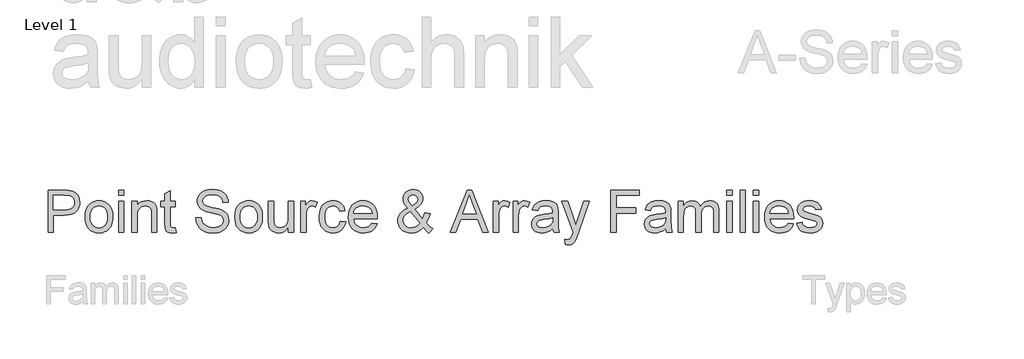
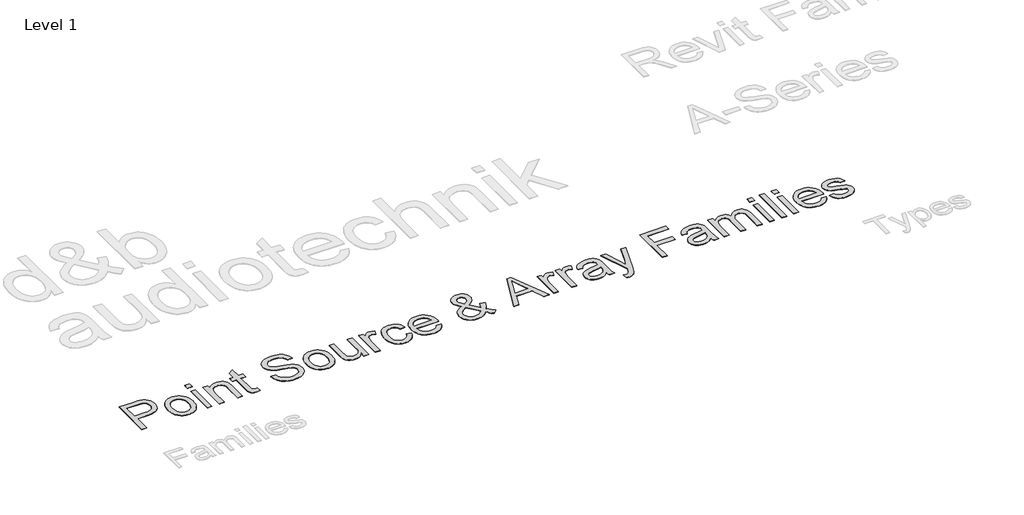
# One storey, part 8 of 9: 1 proxy.
"""IFC4 building model written with IfcOpenShell, lengths in millimetres."""

from ifc_helpers import new_model, si_unit, origin, origin_with_axes, place, context, project, spatial, polyline, outline, extrude, element, save

model = new_model("IFC4")

# Units and contexts
model_context = context("Model", 3, world=origin())
ifc_project = project(units=[si_unit("LENGTHUNIT", "METRE", prefix="MILLI")], contexts=[model_context])

# Site, building, storey
site = spatial("IfcSite", under=ifc_project)
building = spatial("IfcBuilding", under=site)
storey = spatial("IfcBuildingStorey", under=building, Name="Level 1", Elevation=0.0)

# Proxy
placement = place(None, origin())
element("IfcBuildingElementProxy", 1, Name="600mm Arial", ObjectType="600mm Arial", at=placement, inside=storey, context=model_context, shape_type="SweptSolid", body=[
    extrude(outline(polyline([(-21034.9539913, 18351.3054836), (-21034.9539913, 18942.0747143), (-20816.0116836, 18942.0747143), (-20765.0261067, 18940.6684643), (-20727.7424528, 18936.4497143), (-20688.3854817, 18925.938897), (-20655.9876451, 18908.829522), (-20629.8999047, 18884.346349), (-20609.473222, 18851.7141374), (-20596.2761067, 18813.2225509), (-20591.8770682, 18771.1612528), (-20594.8473206, 18734.8962288), (-20603.7580778, 18701.533849), (-20618.6093398, 18671.0741134), (-20639.4011067, 18643.517022), (-20667.9452773, 18620.674474), (-20706.0537509, 18604.3583682), (-20753.7265273, 18594.5687047), (-20810.9636067, 18591.3054836), (-20961.1078374, 18591.3054836), (-20961.1078374, 18351.3054836), (-21034.9539913, 18351.3054836)]), holes=[polyline([(-20961.1078374, 18665.1516374), (-20806.6366836, 18665.1516374), (-20771.1198567, 18666.846349), (-20741.1559143, 18671.9304836), (-20716.7448567, 18680.4040413), (-20697.8866836, 18692.267022), (-20683.8151692, 18707.2039211), (-20673.7640874, 18724.8992336), (-20667.7334384, 18745.3529595), (-20665.723222, 18768.565099), (-20670.4648086, 18801.7381759), (-20684.6895682, 18829.7189451), (-20706.630674, 18850.7766374), (-20734.521299, 18863.1804836), (-20763.0068759, 18866.9665413), (-20808.3674528, 18868.2285605), (-20961.1078374, 18868.2285605), (-20961.1078374, 18665.1516374)])]), origin_with_axes(), (0.0, 0.0, 1.0), 5.0),
    extrude(outline(polyline([(-20518.0309143, 18568.2285605), (-20514.0375249, 18624.4154595), (-20502.0573567, 18672.8319259), (-20482.0904095, 18713.4779595), (-20454.1366836, 18746.3535605), (-20425.9936547, 18767.3661807), (-20394.9299528, 18782.3751951), (-20360.9455778, 18791.3806038), (-20324.0405297, 18794.3824066), (-20283.2998446, 18790.7270581), (-20246.4624047, 18779.7610124), (-20213.52821, 18761.4842696), (-20184.4972605, 18735.8968297), (-20160.8028494, 18703.8640773), (-20143.8782701, 18666.251397), (-20133.7235225, 18623.0587889), (-20130.3386067, 18574.2862528), (-20131.8350009, 18534.7580076), (-20136.3241836, 18499.6828874), (-20143.8061547, 18469.0608922), (-20154.2809143, 18442.892022), (-20167.6177533, 18420.2883562), (-20183.6859624, 18400.361974), (-20202.4855417, 18383.1128754), (-20224.0164913, 18368.5410605), (-20247.4404696, 18356.9620341), (-20271.9191355, 18348.6913009), (-20297.4524889, 18343.728861), (-20324.0405297, 18342.0747143), (-20365.3761667, 18345.7165413), (-20402.5561547, 18356.642022), (-20435.5804937, 18374.8511566), (-20464.4491836, 18400.3439451), (-20487.8911908, 18432.6876951), (-20504.6354817, 18471.4497143), (-20514.6820562, 18516.6300028), (-20518.0309143, 18568.2285605)]), holes=[polyline([(-20444.1847605, 18568.3727913), (-20442.0483422, 18532.5539812), (-20435.6390874, 18501.5398586), (-20424.9569961, 18475.3304235), (-20410.0020682, 18453.9256759), (-20391.8109624, 18437.2985725), (-20371.4203374, 18425.4220701), (-20348.8301932, 18418.2961687), (-20324.0405297, 18415.9208682), (-20299.3770682, 18418.3096903), (-20276.8770682, 18425.4761566), (-20256.5405297, 18437.4202672), (-20238.3674528, 18454.142022), (-20223.4125249, 18475.7586086), (-20212.7304336, 18502.3872143), (-20206.3211788, 18534.0278393), (-20204.1847605, 18570.6804836), (-20206.3347004, 18605.3634764), (-20212.7845201, 18635.5663009), (-20223.5342196, 18661.2889571), (-20238.583799, 18682.5314451), (-20256.8244841, 18699.1585485), (-20277.1475009, 18711.0350509), (-20299.5528494, 18718.1609523), (-20324.0405297, 18720.5362528), (-20348.8301932, 18718.1699667), (-20371.4203374, 18711.0711086), (-20391.8109624, 18699.2396783), (-20410.0020682, 18682.6756759), (-20424.9569961, 18661.3340292), (-20435.6390874, 18635.1696663), (-20442.0483422, 18604.1825869), (-20444.1847605, 18568.3727913)])]), origin_with_axes(), (0.0, 0.0, 1.0), 5.0),
    extrude(outline(polyline([(-20047.2616836, 18868.2285605), (-20047.2616836, 18942.0747143), (-19973.4155297, 18942.0747143), (-19973.4155297, 18868.2285605), (-20047.2616836, 18868.2285605)])), origin_with_axes(), (0.0, 0.0, 1.0), 5.0),
    extrude(outline(polyline([(-20047.2616836, 18351.3054836), (-20047.2616836, 18785.1516374), (-19973.4155297, 18785.1516374), (-19973.4155297, 18351.3054836), (-20047.2616836, 18351.3054836)])), origin_with_axes(), (0.0, 0.0, 1.0), 5.0),
    extrude(outline(polyline([(-19862.646299, 18351.3054836), (-19862.646299, 18785.1516374), (-19788.8001451, 18785.1516374), (-19788.8001451, 18724.5747143), (-19763.145097, 18755.1155797), (-19732.333799, 18776.9304836), (-19696.3662509, 18790.0194259), (-19655.2424528, 18794.3824066), (-19618.8422124, 18790.8667816), (-19585.5068759, 18780.3199066), (-19557.7063951, 18764.0578874), (-19537.910722, 18743.3968297), (-19524.4792317, 18718.3908201), (-19515.771299, 18689.0939451), (-19511.8770682, 18617.6997143), (-19511.8770682, 18351.3054836), (-19585.723222, 18351.3054836), (-19585.723222, 18607.7477913), (-19587.8506259, 18645.9328874), (-19594.2328374, 18673.0843297), (-19606.005674, 18692.5374547), (-19624.3049528, 18707.627599), (-19647.7604817, 18717.3090893), (-19675.0020682, 18720.5362528), (-19697.4254456, 18718.7243538), (-19718.2532701, 18713.2886566), (-19737.4855417, 18704.2291615), (-19755.1222605, 18691.5458682), (-19769.856335, 18673.7964691), (-19780.380674, 18649.5386566), (-19786.6952773, 18618.7724307), (-19788.8001451, 18581.4977913), (-19788.8001451, 18351.3054836), (-19862.646299, 18351.3054836)])), origin_with_axes(), (0.0, 0.0, 1.0), 5.0),
    extrude(outline(polyline([(-19253.4155297, 18412.892022), (-19244.1847605, 18349.142022), (-19299.4251451, 18342.0747143), (-19334.8698567, 18345.1396182), (-19361.3001451, 18354.3343297), (-19379.9780297, 18368.5050028), (-19392.1655297, 18386.4977913), (-19398.8722605, 18417.3992336), (-19401.1078374, 18470.2958682), (-19401.1078374, 18711.3054836), (-19456.4924528, 18711.3054836), (-19456.4924528, 18785.1516374), (-19401.1078374, 18785.1516374), (-19401.1078374, 18890.5843297), (-19327.2616836, 18933.9977913), (-19327.2616836, 18785.1516374), (-19253.4155297, 18785.1516374), (-19253.4155297, 18711.3054836), (-19327.2616836, 18711.3054836), (-19327.2616836, 18472.4593297), (-19323.3674528, 18434.3824066), (-19310.7472605, 18420.8968297), (-19300.0922124, 18417.1648586), (-19285.5789913, 18415.9208682), (-19253.4155297, 18412.892022)])), origin_with_axes(), (0.0, 0.0, 1.0), 5.0),
    extrude(outline(polyline([(-18967.2616836, 18554.3824066), (-18893.4155297, 18554.3824066), (-18884.941972, 18513.4028393), (-18869.6174528, 18480.4641374), (-18845.7112028, 18454.3223105), (-18811.4924528, 18433.7333682), (-18769.6655297, 18420.3739932), (-18722.9347605, 18415.9208682), (-18681.7929336, 18419.2922624), (-18645.771299, 18429.4064451), (-18616.582597, 18445.4160605), (-18595.9395682, 18466.4737528), (-18583.661924, 18490.6504355), (-18579.5693759, 18516.017022), (-18582.6342797, 18540.7345701), (-18591.8289913, 18562.0987528), (-18610.5068759, 18580.3259163), (-18642.021299, 18595.6324066), (-18749.5453374, 18623.829522), (-18820.1282701, 18642.4893778), (-18865.2905297, 18660.2477913), (-18902.051347, 18685.0915413), (-18928.1030297, 18715.1997143), (-18943.6258663, 18749.923272), (-18948.8001451, 18788.6131759), (-18947.200085, 18810.603861), (-18942.3999047, 18831.8643778), (-18934.3996042, 18852.3947264), (-18923.1991836, 18872.1949066), (-18908.9248446, 18890.4581278), (-18891.7027893, 18906.377599), (-18871.5330177, 18919.9533201), (-18848.4155297, 18931.1852913), (-18796.4563951, 18946.2754355), (-18738.9443759, 18951.3054836), (-18676.6366836, 18946.0410605), (-18622.1174528, 18930.2477913), (-18598.2652893, 18918.4839691), (-18577.333799, 18904.2501951), (-18559.3229817, 18887.5464691), (-18544.2328374, 18868.3727913), (-18532.1805538, 18847.2880557), (-18523.2833182, 18824.8511566), (-18517.5411307, 18801.0620941), (-18514.9539913, 18775.9208682), (-18588.8001451, 18775.9208682), (-18593.740049, 18799.4845701), (-18602.3578374, 18819.9833682), (-18614.6535105, 18837.4172624), (-18630.6270682, 18851.7862528), (-18650.5759865, 18863.018224), (-18674.7977413, 18871.0410605), (-18703.2923326, 18875.8547624), (-18736.0597605, 18877.4593297), (-18769.8728615, 18875.8727913), (-18798.7640874, 18871.1131759), (-18822.7334384, 18863.1804836), (-18841.7809143, 18852.0747143), (-18856.2941355, 18838.7243538), (-18866.660722, 18824.0578874), (-18872.880674, 18808.0753153), (-18874.9539913, 18790.7766374), (-18869.0765874, 18762.3992336), (-18851.4443759, 18739.5747143), (-18835.254472, 18729.424474), (-18809.7616836, 18719.1660605), (-18730.8674528, 18698.3247143), (-18649.4491836, 18678.5290413), (-18600.1943759, 18661.2574066), (-18558.0970201, 18634.4665413), (-18541.8214792, 18618.7183441), (-18528.7280297, 18601.4016374), (-18518.6634264, 18582.6065653), (-18511.474424, 18562.423272), (-18505.723222, 18517.892022), (-18507.3773687, 18494.7925629), (-18512.3398086, 18472.3691855), (-18520.6105417, 18450.6218898), (-18532.1895682, 18429.5506759), (-18546.8740634, 18409.971349), (-18564.4612028, 18392.6997143), (-18584.9509865, 18377.735772), (-18608.3434143, 18365.079522), (-18633.9578975, 18355.0149187), (-18661.113847, 18347.8259163), (-18720.0501451, 18342.0747143), (-18757.825085, 18343.6251951), (-18792.3999047, 18348.2766374), (-18823.7746042, 18356.0290413), (-18851.9491836, 18366.8824066), (-18877.0949167, 18380.8547624), (-18899.3830778, 18397.9641374), (-18918.8136667, 18418.2105316), (-18935.3866836, 18441.5939451), (-18948.7370442, 18467.3571663), (-18958.4996643, 18494.7429836), (-18964.6745442, 18523.751397), (-18967.2616836, 18554.3824066)])), origin_with_axes(), (0.0, 0.0, 1.0), 5.0),
    extrude(outline(polyline([(-18422.646299, 18568.2285605), (-18418.6529095, 18624.4154595), (-18406.6727413, 18672.8319259), (-18386.7057942, 18713.4779595), (-18358.7520682, 18746.3535605), (-18330.6090393, 18767.3661807), (-18299.5453374, 18782.3751951), (-18265.5609624, 18791.3806038), (-18228.6559143, 18794.3824066), (-18187.9152292, 18790.7270581), (-18151.0777893, 18779.7610124), (-18118.1435946, 18761.4842696), (-18089.1126451, 18735.8968297), (-18065.4182341, 18703.8640773), (-18048.4936547, 18666.251397), (-18038.3389071, 18623.0587889), (-18034.9539913, 18574.2862528), (-18036.4503855, 18534.7580076), (-18040.9395682, 18499.6828874), (-18048.4215393, 18469.0608922), (-18058.896299, 18442.892022), (-18072.2331379, 18420.2883562), (-18088.301347, 18400.361974), (-18107.1009264, 18383.1128754), (-18128.6318759, 18368.5410605), (-18152.0558542, 18356.9620341), (-18176.5345201, 18348.6913009), (-18202.0678735, 18343.728861), (-18228.6559143, 18342.0747143), (-18269.9915514, 18345.7165413), (-18307.1715393, 18356.642022), (-18340.1958783, 18374.8511566), (-18369.0645682, 18400.3439451), (-18392.5065754, 18432.6876951), (-18409.2508663, 18471.4497143), (-18419.2974408, 18516.6300028), (-18422.646299, 18568.2285605)]), holes=[polyline([(-18348.8001451, 18568.3727913), (-18346.6637268, 18532.5539812), (-18340.254472, 18501.5398586), (-18329.5723807, 18475.3304235), (-18314.6174528, 18453.9256759), (-18296.426347, 18437.2985725), (-18276.035722, 18425.4220701), (-18253.4455778, 18418.2961687), (-18228.6559143, 18415.9208682), (-18203.9924528, 18418.3096903), (-18181.4924528, 18425.4761566), (-18161.1559143, 18437.4202672), (-18142.9828374, 18454.142022), (-18128.0279095, 18475.7586086), (-18117.3458182, 18502.3872143), (-18110.9365634, 18534.0278393), (-18108.8001451, 18570.6804836), (-18110.950085, 18605.3634764), (-18117.3999047, 18635.5663009), (-18128.1496042, 18661.2889571), (-18143.1991836, 18682.5314451), (-18161.4398687, 18699.1585485), (-18181.7628855, 18711.0350509), (-18204.1682341, 18718.1609523), (-18228.6559143, 18720.5362528), (-18253.4455778, 18718.1699667), (-18276.035722, 18711.0711086), (-18296.426347, 18699.2396783), (-18314.6174528, 18682.6756759), (-18329.5723807, 18661.3340292), (-18340.254472, 18635.1696663), (-18346.6637268, 18604.1825869), (-18348.8001451, 18568.3727913)])]), origin_with_axes(), (0.0, 0.0, 1.0), 5.0),
    extrude(outline(polyline([(-17674.9539913, 18351.3054836), (-17674.9539913, 18425.8727913), (-17701.6727413, 18389.2111326), (-17732.7905297, 18363.0242336), (-17768.3073567, 18347.3120941), (-17808.223222, 18342.0747143), (-17844.1907701, 18345.752599), (-17877.6703374, 18356.7862528), (-17905.7592797, 18373.3727913), (-17925.5549528, 18393.7093297), (-17938.8782701, 18418.408849), (-17947.5501451, 18448.0843297), (-17951.8770682, 18516.7381759), (-17951.8770682, 18785.1516374), (-17878.0309143, 18785.1516374), (-17878.0309143, 18551.4977913), (-17876.9131259, 18504.767022), (-17873.5597605, 18476.2093297), (-17862.7965393, 18451.095147), (-17844.3530297, 18432.002599), (-17819.4551932, 18419.9413009), (-17789.3289913, 18415.9208682), (-17757.4720201, 18420.0314451), (-17727.6703374, 18432.3631759), (-17703.0970201, 18451.7802432), (-17686.9251451, 18477.1468297), (-17677.9467797, 18511.8884163), (-17674.9539913, 18559.4304836), (-17674.9539913, 18785.1516374), (-17601.1078374, 18785.1516374), (-17601.1078374, 18351.3054836), (-17674.9539913, 18351.3054836)])), origin_with_axes(), (0.0, 0.0, 1.0), 5.0),
    extrude(outline(polyline([(-17499.5693759, 18351.3054836), (-17499.5693759, 18785.1516374), (-17434.9539913, 18785.1516374), (-17434.9539913, 18720.9689451), (-17411.083799, 18758.1804836), (-17389.0886067, 18780.1035605), (-17367.021299, 18790.8126951), (-17342.9347605, 18794.3824066), (-17306.1559143, 18788.6852913), (-17268.8001451, 18771.5939451), (-17293.4636067, 18705.392022), (-17319.4251451, 18716.7501951), (-17345.3866836, 18720.5362528), (-17367.4359624, 18716.8944259), (-17387.1414913, 18705.9689451), (-17403.0609624, 18688.5891374), (-17413.7520682, 18665.5843297), (-17422.7304336, 18624.3343297), (-17425.723222, 18579.3343297), (-17425.723222, 18351.3054836), (-17499.5693759, 18351.3054836)])), origin_with_axes(), (0.0, 0.0, 1.0), 5.0),
    extrude(outline(polyline([(-16945.723222, 18508.2285605), (-16871.8770682, 18498.9977913), (-16879.9089192, 18464.1525389), (-16892.4660105, 18433.3187047), (-16909.5483422, 18406.4962889), (-16931.1559143, 18383.6852913), (-16956.3782701, 18365.4806639), (-16984.3049528, 18352.4773586), (-17014.9359624, 18344.6753754), (-17048.271299, 18342.0747143), (-17089.6880658, 18345.7030196), (-17126.8229817, 18356.5879355), (-17159.6760466, 18374.7294619), (-17188.2472605, 18400.127599), (-17211.3737629, 18432.3045821), (-17227.8926932, 18470.782647), (-17237.8040514, 18515.5617937), (-17241.1078374, 18566.642022), (-17235.4648086, 18632.3571663), (-17228.4110225, 18661.9289812), (-17218.535722, 18689.3102913), (-17205.771299, 18713.9512167), (-17190.0501451, 18735.3018778), (-17171.3722605, 18753.3622744), (-17149.7376451, 18768.1324066), (-17126.1243639, 18779.6167816), (-17101.5104817, 18787.8199066), (-17075.8959985, 18792.7417816), (-17049.2809143, 18794.3824066), (-17016.5179937, 18792.1288009), (-16986.8830778, 18785.3679836), (-16960.3761667, 18774.0999547), (-16936.9972605, 18758.3247143), (-16917.1429937, 18738.4028393), (-16901.2100009, 18714.6949066), (-16889.1982821, 18687.2009163), (-16881.1078374, 18655.9208682), (-16954.9539913, 18646.690099), (-16968.349424, 18678.907647), (-16989.208799, 18702.002599), (-17016.3782701, 18715.9028393), (-17048.7039913, 18720.5362528), (-17073.7956379, 18718.2556038), (-17096.426347, 18711.4136566), (-17116.5961187, 18700.0104115), (-17134.3049528, 18684.0458682), (-17148.7235225, 18663.1504355), (-17159.0225009, 18636.954522), (-17165.2018879, 18605.4581278), (-17167.2616836, 18568.6612528), (-17165.24696, 18531.3099908), (-17159.2027893, 18499.4485124), (-17149.1291716, 18473.0768177), (-17135.0261067, 18452.1949066), (-17117.668835, 18436.3250148), (-17097.832597, 18424.9893778), (-17075.5173927, 18418.1879956), (-17050.723222, 18415.9208682), (-17012.4840393, 18421.5819259), (-16995.9470802, 18428.658248), (-16981.1318759, 18438.565099), (-16968.4530898, 18451.4106518), (-16958.3253855, 18467.3030797), (-16950.7487629, 18486.2423826), (-16945.723222, 18508.2285605)])), origin_with_axes(), (0.0, 0.0, 1.0), 5.0),
    extrude(outline(polyline([(-16503.5116836, 18480.5362528), (-16431.1078374, 18471.3054836), (-16442.2090994, 18442.3060845), (-16457.1955778, 18416.7501951), (-16476.0672725, 18394.6378153), (-16498.8241836, 18375.9689451), (-16525.231936, 18361.1402191), (-16555.0561547, 18350.548272), (-16588.2968398, 18344.1931038), (-16624.9539913, 18342.0747143), (-16670.7743038, 18345.7300629), (-16711.6006259, 18356.6961086), (-16747.4329576, 18374.9728514), (-16778.271299, 18400.5602913), (-16803.0699768, 18432.7462889), (-16820.7833182, 18470.8187047), (-16831.411323, 18514.7775389), (-16834.9539913, 18564.6227913), (-16831.3752653, 18616.158248), (-16820.6390874, 18661.5819259), (-16802.7454576, 18700.8938249), (-16777.6943759, 18734.0939451), (-16746.9371643, 18760.470147), (-16711.9251451, 18779.3102913), (-16672.6583182, 18790.6143778), (-16629.1366836, 18794.3824066), (-16587.0167917, 18790.6233922), (-16548.926347, 18779.346349), (-16514.8653494, 18760.5512768), (-16484.833799, 18734.2381759), (-16460.3190754, 18701.1101711), (-16442.8085586, 18661.8703874), (-16432.3022485, 18616.5188249), (-16428.8001451, 18565.0554836), (-16429.2328374, 18545.1516374), (-16761.1078374, 18545.1516374), (-16756.8304937, 18515.6834884), (-16748.3253855, 18489.8751951), (-16735.5925129, 18467.7267576), (-16718.6318759, 18449.2381759), (-16698.3809744, 18434.6618538), (-16675.7773086, 18424.2501951), (-16650.8208783, 18418.0031999), (-16623.5116836, 18415.9208682), (-16584.208799, 18419.7790413), (-16551.1078374, 18431.3535605), (-16524.208799, 18451.3655797), (-16503.5116836, 18480.5362528)]), holes=[polyline([(-16761.1078374, 18618.9977913), (-16502.646299, 18618.9977913), (-16512.6342797, 18658.0122143), (-16521.2250249, 18673.3547624), (-16532.2136067, 18685.9208682), (-16552.3518278, 18701.065099), (-16575.2664913, 18711.8824066), (-16600.957597, 18718.3727913), (-16629.4251451, 18720.5362528), (-16655.3911908, 18718.8099908), (-16679.2027893, 18713.6312047), (-16700.8599408, 18704.9998946), (-16720.3626451, 18692.9160605), (-16736.7283302, 18677.9385966), (-16748.974424, 18660.626397), (-16757.1009264, 18640.9794619), (-16761.1078374, 18618.9977913)])]), origin_with_axes(), (0.0, 0.0, 1.0), 5.0),
    extrude(outline(polyline([(-15785.3866836, 18424.2862528), (-15822.9227413, 18388.3187047), (-15863.7039913, 18362.627599), (-15907.802549, 18347.2129355), (-15955.2905297, 18342.0747143), (-15998.379472, 18345.8788009), (-16036.7809143, 18357.2910605), (-16070.4948567, 18376.3114932), (-16099.521299, 18402.940099), (-16118.3884865, 18428.4779595), (-16131.865049, 18455.4761566), (-16139.9509865, 18483.9346903), (-16142.646299, 18513.8535605), (-16140.4783302, 18540.3830076), (-16133.974424, 18565.596349), (-16123.1345802, 18589.4935845), (-16107.958799, 18612.0747143), (-16088.4741235, 18633.330724), (-16064.707597, 18653.252599), (-16036.6592196, 18671.8403393), (-16004.3289913, 18689.0939451), (-16036.5465393, 18730.7766374), (-16055.8914913, 18763.8054836), (-16065.5729817, 18792.002599), (-16068.8001451, 18819.190099), (-16066.2580778, 18844.9983922), (-16058.6318759, 18869.0578874), (-16045.9215393, 18891.3685845), (-16028.1270682, 18911.9304836), (-16006.4834384, 18929.1570461), (-15982.2256259, 18941.4617336), (-15955.3536307, 18948.8445461), (-15925.8674528, 18951.3054836), (-15897.7154095, 18948.9527191), (-15872.2496643, 18941.8944259), (-15849.4702172, 18930.1306038), (-15829.3770682, 18913.6612528), (-15812.9708182, 18893.892623), (-15801.2520682, 18872.2309643), (-15794.2208182, 18848.6762768), (-15791.8770682, 18823.2285605), (-15793.6123446, 18802.2700268), (-15798.818174, 18782.0867336), (-15807.4945562, 18762.6786807), (-15819.6414913, 18744.0458682), (-15854.3470201, 18709.1059643), (-15902.9347605, 18677.267022), (-15796.0597605, 18544.142022), (-15777.8506259, 18582.1828874), (-15764.1847605, 18625.9208682), (-15690.3386067, 18609.9112528), (-15713.0549528, 18541.5098105), (-15726.9551932, 18513.0152191), (-15742.5501451, 18488.3247143), (-15700.5789913, 18439.3583682), (-15653.4155297, 18398.9016374), (-15708.8001451, 18342.0747143), (-15746.4804336, 18376.5458682), (-15785.3866836, 18424.2862528)]), holes=[polyline([(-15940.2905297, 18723.8535605), (-15901.6727413, 18748.3547624), (-15879.5693759, 18769.6468297), (-15869.1847605, 18790.361974), (-15865.723222, 18813.1324066), (-15870.2845201, 18838.9316855), (-15883.9684143, 18859.502599), (-15904.5032701, 18872.970147), (-15929.6174528, 18877.4593297), (-15955.2725009, 18873.0062047), (-15976.2761067, 18859.6468297), (-15990.2845201, 18839.8691855), (-15994.9539913, 18816.1612528), (-15988.6078374, 18789.1179836), (-15969.4251451, 18759.0458682), (-15940.2905297, 18723.8535605)]), polyline([(-15834.8578374, 18477.5074066), (-15966.6847605, 18642.0747143), (-16017.0393278, 18609.9473105), (-16047.8145682, 18580.1997143), (-16063.5537509, 18551.7862528), (-16068.8001451, 18523.6612528), (-16067.0062749, 18506.407647), (-16061.6246643, 18488.829522), (-16040.098222, 18452.6997143), (-16024.2508663, 18436.6089691), (-16005.410722, 18425.1155797), (-15983.5777893, 18418.2195461), (-15958.7520682, 18415.9208682), (-15925.3446163, 18420.2117336), (-15890.8914913, 18433.0843297), (-15859.395097, 18452.7718297), (-15834.8578374, 18477.5074066)])]), origin_with_axes(), (0.0, 0.0, 1.0), 5.0),
    extrude(outline(polyline([(-15408.3674528, 18351.3054836), (-15172.5501451, 18942.0747143), (-15109.6655297, 18942.0747143), (-14873.848222, 18351.3054836), (-14951.8770682, 18351.3054836), (-15019.521299, 18535.9208682), (-15262.8386067, 18535.9208682), (-15330.3386067, 18351.3054836), (-15408.3674528, 18351.3054836)]), holes=[polyline([(-15235.723222, 18609.767022), (-15046.4924528, 18609.767022), (-15099.7136067, 18755.0074066), (-15141.1078374, 18868.2285605), (-15177.8866836, 18767.6997143), (-15235.723222, 18609.767022)])]), origin_with_axes(), (0.0, 0.0, 1.0), 5.0),
    extrude(outline(polyline([(-14804.1847605, 18351.3054836), (-14804.1847605, 18785.1516374), (-14739.5693759, 18785.1516374), (-14739.5693759, 18720.9689451), (-14715.6991836, 18758.1804836), (-14693.7039913, 18780.1035605), (-14671.6366836, 18790.8126951), (-14647.5501451, 18794.3824066), (-14610.771299, 18788.6852913), (-14573.4155297, 18771.5939451), (-14598.0789913, 18705.392022), (-14624.0405297, 18716.7501951), (-14650.0020682, 18720.5362528), (-14672.051347, 18716.8944259), (-14691.7568759, 18705.9689451), (-14707.676347, 18688.5891374), (-14718.3674528, 18665.5843297), (-14727.3458182, 18624.3343297), (-14730.3386067, 18579.3343297), (-14730.3386067, 18351.3054836), (-14804.1847605, 18351.3054836)])), origin_with_axes(), (0.0, 0.0, 1.0), 5.0),
    extrude(outline(polyline([(-14527.2616836, 18351.3054836), (-14527.2616836, 18785.1516374), (-14462.646299, 18785.1516374), (-14462.646299, 18720.9689451), (-14438.7761067, 18758.1804836), (-14416.7809143, 18780.1035605), (-14394.7136067, 18790.8126951), (-14370.6270682, 18794.3824066), (-14333.848222, 18788.6852913), (-14296.4924528, 18771.5939451), (-14321.1559143, 18705.392022), (-14347.1174528, 18716.7501951), (-14373.0789913, 18720.5362528), (-14395.1282701, 18716.8944259), (-14414.833799, 18705.9689451), (-14430.7532701, 18688.5891374), (-14441.4443759, 18665.5843297), (-14450.4227413, 18624.3343297), (-14453.4155297, 18579.3343297), (-14453.4155297, 18351.3054836), (-14527.2616836, 18351.3054836)])), origin_with_axes(), (0.0, 0.0, 1.0), 5.0),
    extrude(outline(polyline([(-13973.4155297, 18406.690099), (-14008.6979817, 18376.4376951), (-14045.0261067, 18356.642022), (-14083.2292317, 18345.7165413), (-14124.1366836, 18342.0747143), (-14157.0167917, 18344.2652191), (-14185.849424, 18350.8367336), (-14210.6345802, 18361.7892576), (-14231.3722605, 18377.1227913), (-14247.74696, 18395.8637768), (-14259.443174, 18417.0386566), (-14266.4609023, 18440.6474307), (-14268.8001451, 18466.690099), (-14265.2664913, 18497.3030797), (-14254.6655297, 18525.1035605), (-14238.3133663, 18548.9016374), (-14217.5261067, 18567.5074066), (-14193.0970201, 18581.5699066), (-14165.8193759, 18591.7381759), (-14101.9251451, 18602.8439451), (-14026.4203374, 18614.5266374), (-13973.848222, 18628.2285605), (-13973.4155297, 18644.6708682), (-13978.4996643, 18677.627599), (-13984.8548326, 18689.8331278), (-13993.7520682, 18699.190099), (-14009.130674, 18708.5290413), (-14027.8626451, 18715.1997143), (-14075.3866836, 18720.5362528), (-14119.3770682, 18716.9845701), (-14150.098222, 18706.329522), (-14171.0477413, 18686.6239932), (-14185.723222, 18655.9208682), (-14259.5693759, 18665.1516374), (-14246.7508663, 18705.5362528), (-14227.6222605, 18737.267022), (-14200.3987028, 18761.533849), (-14163.2953374, 18779.5266374), (-14117.9167317, 18790.6684643), (-14065.8674528, 18794.3824066), (-14015.9455778, 18791.1011566), (-13976.3722605, 18781.2574066), (-13946.5345201, 18766.455724), (-13925.8193759, 18748.3006759), (-13912.0813951, 18725.8547624), (-13903.1751451, 18698.1804836), (-13899.5693759, 18633.565099), (-13899.5693759, 18541.690099), (-13895.8193759, 18413.3968297), (-13890.2664913, 18381.6840893), (-13881.1078374, 18351.3054836), (-13954.9539913, 18351.3054836), (-13966.7809143, 18376.9785605), (-13973.4155297, 18406.690099)]), holes=[polyline([(-13973.4155297, 18554.3824066), (-14023.0309143, 18542.0867336), (-14092.5501451, 18531.7381759), (-14156.083799, 18519.767022), (-14172.6162509, 18511.5819259), (-14184.8578374, 18500.2958682), (-14192.4299528, 18486.7742336), (-14194.9539913, 18471.8824066), (-14189.4551932, 18449.923272), (-14172.958799, 18431.9304836), (-14145.8253855, 18419.923272), (-14108.4155297, 18415.9208682), (-14068.7520682, 18420.3379355), (-14033.7039913, 18433.5891374), (-14005.2905297, 18453.1143778), (-13985.5309143, 18476.3535605), (-13976.7688951, 18500.2958682), (-13973.848222, 18533.4689451), (-13973.4155297, 18554.3824066)])]), origin_with_axes(), (0.0, 0.0, 1.0), 5.0),
    extrude(outline(polyline([(-13798.0309143, 18185.1516374), (-13807.2616836, 18256.2574066), (-13769.7616836, 18249.767022), (-13750.0381259, 18251.8042816), (-13734.7136067, 18257.9160605), (-13722.7785105, 18267.6696663), (-13713.223222, 18280.6324066), (-13693.0309143, 18335.0074066), (-13687.2616836, 18352.892022), (-13844.1847605, 18785.1516374), (-13766.3001451, 18785.1516374), (-13683.0789913, 18544.2862528), (-13654.0886067, 18447.940099), (-13625.098222, 18533.0362528), (-13539.5693759, 18785.1516374), (-13462.2616836, 18785.1516374), (-13613.271299, 18340.9208682), (-13652.5020682, 18244.5747143), (-13672.5862028, 18213.8175028), (-13695.3386067, 18192.5074066), (-13721.7688951, 18180.0675028), (-13752.8866836, 18175.9208682), (-13774.2688951, 18178.2285605), (-13798.0309143, 18185.1516374)])), origin_with_axes(), (0.0, 0.0, 1.0), 5.0),
    extrude(outline(polyline([(-13161.1078374, 18351.3054836), (-13161.1078374, 18942.0747143), (-12764.1847605, 18942.0747143), (-12764.1847605, 18868.2285605), (-13087.2616836, 18868.2285605), (-13087.2616836, 18692.8439451), (-12810.3386067, 18692.8439451), (-12810.3386067, 18618.9977913), (-13087.2616836, 18618.9977913), (-13087.2616836, 18351.3054836), (-13161.1078374, 18351.3054836)])), origin_with_axes(), (0.0, 0.0, 1.0), 5.0),
    extrude(outline(polyline([(-12394.9539913, 18406.690099), (-12430.2364432, 18376.4376951), (-12466.5645682, 18356.642022), (-12504.7676932, 18345.7165413), (-12545.6751451, 18342.0747143), (-12578.5552533, 18344.2652191), (-12607.3878855, 18350.8367336), (-12632.1730417, 18361.7892576), (-12652.910722, 18377.1227913), (-12669.2854216, 18395.8637768), (-12680.9816355, 18417.0386566), (-12687.9993639, 18440.6474307), (-12690.3386067, 18466.690099), (-12686.8049528, 18497.3030797), (-12676.2039913, 18525.1035605), (-12659.8518278, 18548.9016374), (-12639.0645682, 18567.5074066), (-12614.6354817, 18581.5699066), (-12587.3578374, 18591.7381759), (-12523.4636067, 18602.8439451), (-12447.958799, 18614.5266374), (-12395.3866836, 18628.2285605), (-12394.9539913, 18644.6708682), (-12400.0381259, 18677.627599), (-12406.3932942, 18689.8331278), (-12415.2905297, 18699.190099), (-12430.6691355, 18708.5290413), (-12449.4011067, 18715.1997143), (-12496.9251451, 18720.5362528), (-12540.9155297, 18716.9845701), (-12571.6366836, 18706.329522), (-12592.5862028, 18686.6239932), (-12607.2616836, 18655.9208682), (-12681.1078374, 18665.1516374), (-12668.2893278, 18705.5362528), (-12649.160722, 18737.267022), (-12621.9371643, 18761.533849), (-12584.833799, 18779.5266374), (-12539.4551932, 18790.6684643), (-12487.4059143, 18794.3824066), (-12437.4840393, 18791.1011566), (-12397.910722, 18781.2574066), (-12368.0729817, 18766.455724), (-12347.3578374, 18748.3006759), (-12333.6198567, 18725.8547624), (-12324.7136067, 18698.1804836), (-12321.1078374, 18633.565099), (-12321.1078374, 18541.690099), (-12317.3578374, 18413.3968297), (-12311.8049528, 18381.6840893), (-12302.646299, 18351.3054836), (-12376.4924528, 18351.3054836), (-12388.3193759, 18376.9785605), (-12394.9539913, 18406.690099)]), holes=[polyline([(-12394.9539913, 18554.3824066), (-12444.5693759, 18542.0867336), (-12514.0886067, 18531.7381759), (-12577.6222605, 18519.767022), (-12594.1547124, 18511.5819259), (-12606.396299, 18500.2958682), (-12613.9684143, 18486.7742336), (-12616.4924528, 18471.8824066), (-12610.9936547, 18449.923272), (-12594.4972605, 18431.9304836), (-12567.363847, 18419.923272), (-12529.9539913, 18415.9208682), (-12490.2905297, 18420.3379355), (-12455.2424528, 18433.5891374), (-12426.8289913, 18453.1143778), (-12407.0693759, 18476.3535605), (-12398.3073567, 18500.2958682), (-12395.3866836, 18533.4689451), (-12394.9539913, 18554.3824066)])]), origin_with_axes(), (0.0, 0.0, 1.0), 5.0),
    extrude(outline(polyline([(-12219.5693759, 18351.3054836), (-12219.5693759, 18785.1516374), (-12145.723222, 18785.1516374), (-12145.723222, 18713.7574066), (-12123.5116836, 18746.5518778), (-12094.9539913, 18772.2429836), (-12061.0237028, 18788.8475509), (-12022.6943759, 18794.3824066), (-11981.6246643, 18788.7393778), (-11964.145698, 18781.6855917), (-11948.7039913, 18771.8102913), (-11924.1126451, 18744.7129355), (-11908.0309143, 18708.565099), (-11881.113847, 18746.1101711), (-11850.410722, 18772.9280797), (-11815.9215393, 18789.0188249), (-11777.646299, 18794.3824066), (-11748.0834985, 18792.1513369), (-11722.1354817, 18785.4581278), (-11699.8022485, 18774.3027792), (-11681.083799, 18758.6852913), (-11666.2866235, 18738.4253754), (-11655.7172124, 18713.3427432), (-11649.3755658, 18683.4373946), (-11647.2616836, 18648.7093297), (-11647.2616836, 18351.3054836), (-11721.1078374, 18351.3054836), (-11721.1078374, 18616.9785605), (-11722.8205778, 18653.8114932), (-11727.958799, 18678.6372143), (-11737.5862028, 18695.6384163), (-11752.7664913, 18708.9977913), (-11772.2917317, 18717.6516374), (-11794.9539913, 18720.5362528), (-11815.8809744, 18718.6882961), (-11834.9600009, 18713.1444259), (-11852.1910706, 18703.9046422), (-11867.5741836, 18690.9689451), (-11880.2259264, 18673.9587288), (-11889.2628855, 18652.4953874), (-11894.685061, 18626.5789211), (-11896.4924528, 18596.2093297), (-11896.4924528, 18351.3054836), (-11970.3386067, 18351.3054836), (-11970.3386067, 18625.1997143), (-11974.6114432, 18666.954522), (-11987.4299528, 18696.7381759), (-11997.341311, 18707.1498345), (-12009.9840393, 18714.5867336), (-12025.3581379, 18719.048873), (-12043.4636067, 18720.5362528), (-12071.9131259, 18716.5699066), (-12098.1270682, 18704.6708682), (-12119.7616836, 18685.127599), (-12134.473222, 18658.2285605), (-12142.910722, 18620.908849), (-12145.723222, 18570.1035605), (-12145.723222, 18351.3054836), (-12219.5693759, 18351.3054836)])), origin_with_axes(), (0.0, 0.0, 1.0), 5.0),
    extrude(outline(polyline([(-11536.4924528, 18351.3054836), (-11536.4924528, 18785.1516374), (-11462.646299, 18785.1516374), (-11462.646299, 18351.3054836), (-11536.4924528, 18351.3054836)])), origin_with_axes(), (0.0, 0.0, 1.0), 5.0),
    extrude(outline(polyline([(-11536.4924528, 18868.2285605), (-11536.4924528, 18942.0747143), (-11462.646299, 18942.0747143), (-11462.646299, 18868.2285605), (-11536.4924528, 18868.2285605)])), origin_with_axes(), (0.0, 0.0, 1.0), 5.0),
    extrude(outline(polyline([(-11351.8770682, 18351.3054836), (-11351.8770682, 18942.0747143), (-11278.0309143, 18942.0747143), (-11278.0309143, 18351.3054836), (-11351.8770682, 18351.3054836)])), origin_with_axes(), (0.0, 0.0, 1.0), 5.0),
    extrude(outline(polyline([(-11167.2616836, 18351.3054836), (-11167.2616836, 18785.1516374), (-11093.4155297, 18785.1516374), (-11093.4155297, 18351.3054836), (-11167.2616836, 18351.3054836)])), origin_with_axes(), (0.0, 0.0, 1.0), 5.0),
    extrude(outline(polyline([(-11167.2616836, 18868.2285605), (-11167.2616836, 18942.0747143), (-11093.4155297, 18942.0747143), (-11093.4155297, 18868.2285605), (-11167.2616836, 18868.2285605)])), origin_with_axes(), (0.0, 0.0, 1.0), 5.0),
    extrude(outline(polyline([(-10678.896299, 18480.5362528), (-10606.4924528, 18471.3054836), (-10617.5937148, 18442.3060845), (-10632.5801932, 18416.7501951), (-10651.4518879, 18394.6378153), (-10674.208799, 18375.9689451), (-10700.6165514, 18361.1402191), (-10730.4407701, 18350.548272), (-10763.6814552, 18344.1931038), (-10800.3386067, 18342.0747143), (-10846.1589192, 18345.7300629), (-10886.9852413, 18356.6961086), (-10922.817573, 18374.9728514), (-10953.6559143, 18400.5602913), (-10978.4545922, 18432.7462889), (-10996.1679336, 18470.8187047), (-11006.7959384, 18514.7775389), (-11010.3386067, 18564.6227913), (-11006.7598807, 18616.158248), (-10996.0237028, 18661.5819259), (-10978.130073, 18700.8938249), (-10953.0789913, 18734.0939451), (-10922.3217797, 18760.470147), (-10887.3097605, 18779.3102913), (-10848.0429336, 18790.6143778), (-10804.521299, 18794.3824066), (-10762.4014071, 18790.6233922), (-10724.3109624, 18779.346349), (-10690.2499648, 18760.5512768), (-10660.2184143, 18734.2381759), (-10635.7036908, 18701.1101711), (-10618.193174, 18661.8703874), (-10607.6868639, 18616.5188249), (-10604.1847605, 18565.0554836), (-10604.6174528, 18545.1516374), (-10936.4924528, 18545.1516374), (-10932.2151091, 18515.6834884), (-10923.7100009, 18489.8751951), (-10910.9771283, 18467.7267576), (-10894.0164913, 18449.2381759), (-10873.7655898, 18434.6618538), (-10851.161924, 18424.2501951), (-10826.2054937, 18418.0031999), (-10798.896299, 18415.9208682), (-10759.5934143, 18419.7790413), (-10726.4924528, 18431.3535605), (-10699.5934143, 18451.3655797), (-10678.896299, 18480.5362528)]), holes=[polyline([(-10936.4924528, 18618.9977913), (-10678.0309143, 18618.9977913), (-10688.0188951, 18658.0122143), (-10696.6096403, 18673.3547624), (-10707.598222, 18685.9208682), (-10727.7364432, 18701.065099), (-10750.6511067, 18711.8824066), (-10776.3422124, 18718.3727913), (-10804.8097605, 18720.5362528), (-10830.7758062, 18718.8099908), (-10854.5874047, 18713.6312047), (-10876.2445562, 18704.9998946), (-10895.7472605, 18692.9160605), (-10912.1129456, 18677.9385966), (-10924.3590393, 18660.626397), (-10932.4855417, 18640.9794619), (-10936.4924528, 18618.9977913)])]), origin_with_axes(), (0.0, 0.0, 1.0), 5.0),
    extrude(outline(polyline([(-10558.0309143, 18480.5362528), (-10484.1847605, 18489.767022), (-10479.7226211, 18472.9280797), (-10472.5381259, 18458.1804836), (-10462.6312749, 18445.5242336), (-10450.0020682, 18434.9593297), (-10434.614448, 18426.6300028), (-10416.4323567, 18420.6804836), (-10371.6847605, 18415.9208682), (-10327.4780297, 18420.283849), (-10310.2965393, 18425.7375749), (-10296.396299, 18433.3727913), (-10278.0068759, 18452.3391374), (-10271.8770682, 18474.3343297), (-10273.4185345, 18484.3042816), (-10278.0429336, 18493.1564451), (-10296.5405297, 18507.5074066), (-10324.1967797, 18516.8824066), (-10372.5501451, 18528.565099), (-10439.941972, 18548.0542816), (-10483.7520682, 18564.6949066), (-10511.895097, 18582.8499547), (-10532.285722, 18606.8824066), (-10544.6715393, 18635.2598105), (-10548.8001451, 18666.4497143), (-10545.4828374, 18695.0614932), (-10535.5309143, 18721.4737528), (-10519.8458182, 18744.6408201), (-10499.3289913, 18763.517022), (-10478.9383663, 18775.3980316), (-10452.3818759, 18785.3679836), (-10421.6787509, 18792.1288009), (-10388.848222, 18794.3824066), (-10340.7833182, 18790.7586086), (-10298.9924528, 18779.8872143), (-10265.3866836, 18762.8319259), (-10241.8770682, 18740.6564451), (-10226.3001451, 18711.720147), (-10216.4924528, 18674.3824066), (-10290.3386067, 18665.1516374), (-10299.6595201, 18688.3908201), (-10318.1030297, 18705.8968297), (-10345.849424, 18716.876397), (-10383.0789913, 18720.5362528), (-10425.4828374, 18717.0386566), (-10453.7520682, 18706.5458682), (-10469.6535105, 18691.4016374), (-10474.9539913, 18673.9497143), (-10472.754472, 18662.5915413), (-10466.1559143, 18652.4593297), (-10454.8698567, 18643.408849), (-10438.6078374, 18636.1612528), (-10375.0020682, 18620.440099), (-10266.6126451, 18585.6804836), (-10237.9828374, 18569.0578874), (-10216.2761067, 18546.3054836), (-10202.5922124, 18517.3511566), (-10198.0309143, 18482.1227913), (-10203.3854817, 18445.704522), (-10219.4491836, 18411.4497143), (-10245.6090393, 18382.0446663), (-10281.2520682, 18360.1756759), (-10324.3049528, 18346.5999547), (-10372.6943759, 18342.0747143), (-10412.4389672, 18344.2562047), (-10447.1535105, 18350.8006759), (-10476.8380057, 18361.7081278), (-10501.4924528, 18376.9785605), (-10521.630674, 18396.5398586), (-10537.7664913, 18420.3199066), (-10549.8999047, 18448.3187047), (-10558.0309143, 18480.5362528)])), origin_with_axes(), (0.0, 0.0, 1.0), 5.0),
])

save(model, "model.ifc")
